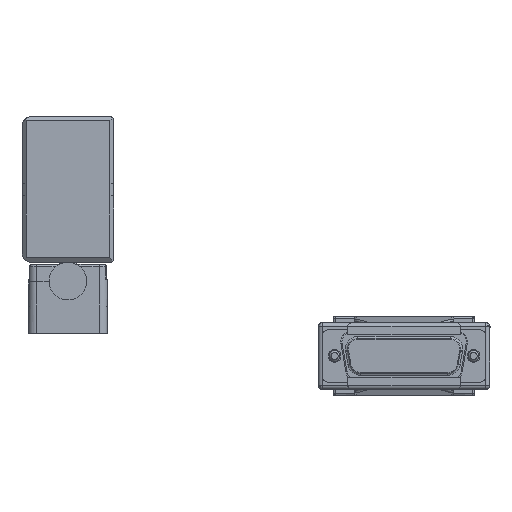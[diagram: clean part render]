
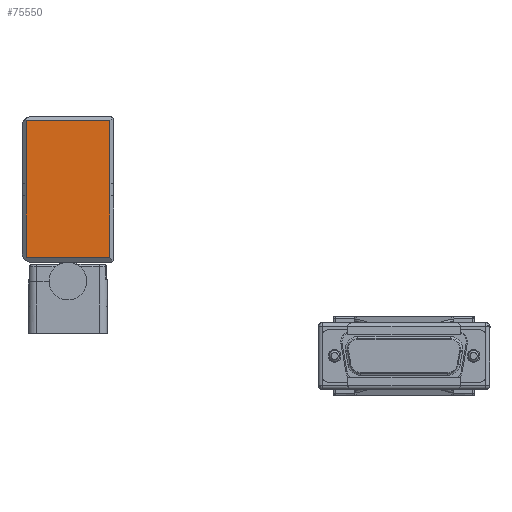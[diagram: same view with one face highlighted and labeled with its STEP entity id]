
A CAD part, left-side view. The second image highlights one B-rep face of the part: STEP entity #75550.
In plain terms, the highlighted planar face has unit normal (-1, 0, 0).
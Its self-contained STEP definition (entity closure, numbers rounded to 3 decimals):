
#62840=CARTESIAN_POINT('',(267.,-471.346,
1071.032));
#62850=VERTEX_POINT('',#62840);
#62880=CARTESIAN_POINT('',(267.,-471.346,
1050.032));
#62890=DIRECTION('',(0.,0.,1.));
#62900=VECTOR('',#62890,1.);
#62910=LINE('',#62880,#62900);
#62920=CARTESIAN_POINT('',(267.,-471.346,
1051.032));
#62930=VERTEX_POINT('',#62920);
#62940=EDGE_CURVE('',#62930,#62850,#62910,.T.);
#75060=CARTESIAN_POINT('',(267.,-504.096,
1050.032));
#75070=DIRECTION('',(0.,0.,-1.));
#75080=VECTOR('',#75070,1.);
#75090=LINE('',#75060,#75080);
#75100=CARTESIAN_POINT('',(267.,-504.096,
1071.032));
#75110=VERTEX_POINT('',#75100);
#75120=CARTESIAN_POINT('',(267.,-504.096,
1051.032));
#75130=VERTEX_POINT('',#75120);
#75140=EDGE_CURVE('',#75110,#75130,#75090,.T.);
#75340=CARTESIAN_POINT('',(267.,-505.096,
1050.032));
#75350=DIRECTION('',(-1.,0.,0.));
#75360=DIRECTION('',(0.,1.,0.));
#75370=AXIS2_PLACEMENT_3D('',#75340,#75350,#75360);
#75380=PLANE('',#75370);
#75390=ORIENTED_EDGE('',*,*,#62940,.F.);
#75400=CARTESIAN_POINT('',(267.,-547.292,
1071.032));
#75410=DIRECTION('',(0.,-1.,0.));
#75420=VECTOR('',#75410,1.);
#75430=LINE('',#75400,#75420);
#75440=EDGE_CURVE('',#62850,#75110,#75430,.T.);
#75450=ORIENTED_EDGE('',*,*,#75440,.F.);
#75460=ORIENTED_EDGE('',*,*,#75140,.F.);
#75470=CARTESIAN_POINT('',(267.,-547.292,
1051.032));
#75480=DIRECTION('',(0.,1.,0.));
#75490=VECTOR('',#75480,1.);
#75500=LINE('',#75470,#75490);
#75510=EDGE_CURVE('',#75130,#62930,#75500,.T.);
#75520=ORIENTED_EDGE('',*,*,#75510,.F.);
#75530=EDGE_LOOP('',(#75520,#75460,#75450,#75390));
#75540=FACE_OUTER_BOUND('',#75530,.T.);
#75550=ADVANCED_FACE('',(#75540),#75380,.T.);
